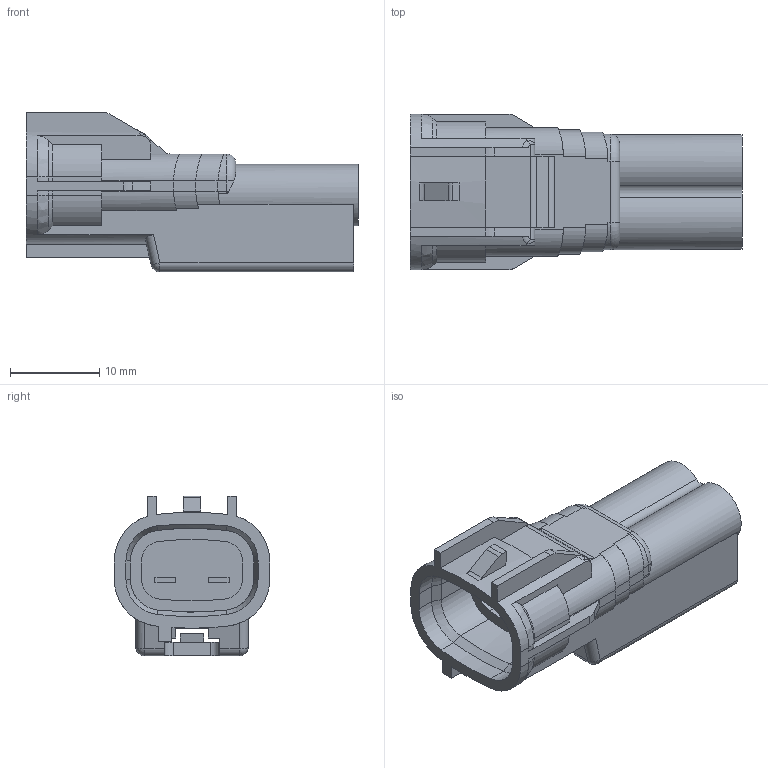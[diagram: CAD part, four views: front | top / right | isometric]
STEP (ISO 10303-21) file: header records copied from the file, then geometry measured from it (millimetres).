
FILE_DESCRIPTION(('CATIA V5 STEP Exchange'),'2;1');
FILE_NAME('N:\C-DAM_MyDesk\ENV\900093\6188-0624.stp','2013-07-25T00:31:36+00:00',('none'),('none'),'CATIA Version 5 Release 20 SP 4 (IN-10)','CATIA V5 STEP AP203','none');
FILE_SCHEMA(('CONFIG_CONTROL_DESIGN'));
Length unit declared in the file: millimetre
Products named in the file (1): 6188-0624
Bounding box: 37.2 x 17.4 x 17.9 mm (x, y, z)
Volume: 4265 mm3; surface area: 3299.3 mm2
Topology: 1 solids, 1 shells, 230 faces, 628 edges, 401 vertices
Faces by surface type: plane 117, cylinder 86, bspline 17, torus 6, sphere 4
Entity records: 7750 total; most frequent: CARTESIAN_POINT 2313, ORIENTED_EDGE 1248, DIRECTION 885, EDGE_CURVE 624, VERTEX_POINT 401, VECTOR 375, LINE 375, AXIS2_PLACEMENT_3D 333
